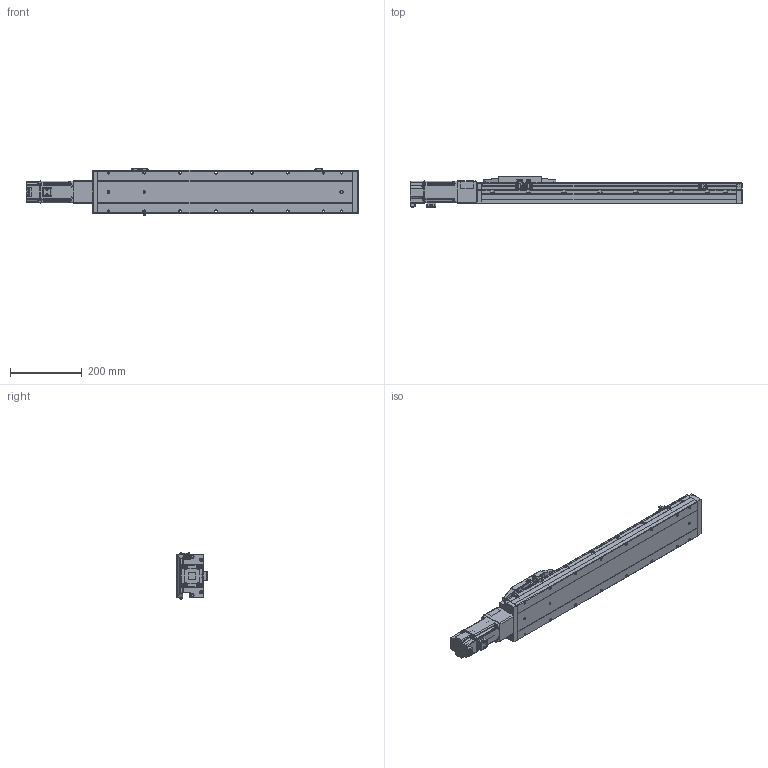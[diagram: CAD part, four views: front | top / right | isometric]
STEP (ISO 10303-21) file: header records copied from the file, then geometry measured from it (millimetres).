
FILE_DESCRIPTION (( 'STEP AP214' ), '1' );
FILE_NAME ('CTH12-L10-S500-BC-C40（简）.STEP', '2023-02-06T05:29:23', ( '' ), ( '' ), 'SwSTEP 2.0', 'SolidWorks 2018', '' );
FILE_SCHEMA (( 'AUTOMOTIVE_DESIGN' ));
Length unit declared in the file: millimetre
Products named in the file (23): CTH12_body_3; CTH12-BL_body_4; hex nuts, style 1-grades ab gb_GB_FASTENER_NUT_SNAB1 M3-N; 蚐郲; CTH12覜茼え; 嫖萇羲壽郪磁2; CTH12底座-L711简（500行程）; 内六角圆柱头螺钉M3-2; CTH12; 内六角圆柱头螺钉M3-1; 400W萇儂; CTH12賑怢郪磁; 湮賑怢  裔赽-1(CTH12)賑怢; 内六角圆柱头螺钉M3; CTH12-BC-06-T40（cth8-bc-06-t40-G）_1; CTH12-L10-S500-BC-C40（简）; CTH12-BC-03_1; M5蹟隊; PM-Y45; 嫖萇羲壽郪磁1333; CTH12賑怢ㄗ潠ㄘ; CTH嫖萇羲壽假蚾啣; CTH12萇儂釱
Assembly tree (43 placements, depth 4):
  CTH12-L10-S500-BC-C40（简）
    CTH12底座-L711简（500行程）
    蚐郲  x2
    CTH12-BL_body_4
    CTH12_body_3
    CTH12賑怢郪磁
      CTH12
        湮賑怢  裔赽-1(CTH12)賑怢
        CTH12賑怢ㄗ潠ㄘ
    CTH12覜茼え
    嫖萇羲壽郪磁2
      CTH嫖萇羲壽假蚾啣
      PM-Y45
      内六角圆柱头螺钉M3-1  x2
      内六角圆柱头螺钉M3-2  x2
      hex nuts, style 1-grades ab gb_GB_FASTENER_NUT_SNAB1 M3-N  x2
    CTH12萇儂釱
      CTH12-BC-03_1
      CTH12-BC-06-T40（cth8-bc-06-t40-G）_1
    嫖萇羲壽郪磁1333  x2
      CTH嫖萇羲壽假蚾啣
      PM-Y45
      内六角圆柱头螺钉M3-2
      内六角圆柱头螺钉M3-1
      hex nuts, style 1-grades ab gb_GB_FASTENER_NUT_SNAB1 M3-N
    内六角圆柱头螺钉M3  x6
    400W萇儂
    M5蹟隊  x4
Bounding box: 925.8 x 86.5 x 131.52 mm (x, y, z)
Volume: 5199520.4 mm3; surface area: 555209.6 mm2
Topology: 45 solids, 47 shells, 2876 faces, 7128 edges, 4477 vertices
Faces by surface type: plane 1424, cylinder 869, cone 323, bspline 132, torus 124, sphere 4
Entity records: 89008 total; most frequent: CARTESIAN_POINT 30446, ORIENTED_EDGE 11358, DIRECTION 11074, EDGE_CURVE 5679, AXIS2_PLACEMENT_3D 3885, VERTEX_POINT 3581, VECTOR 3304, LINE 3304
